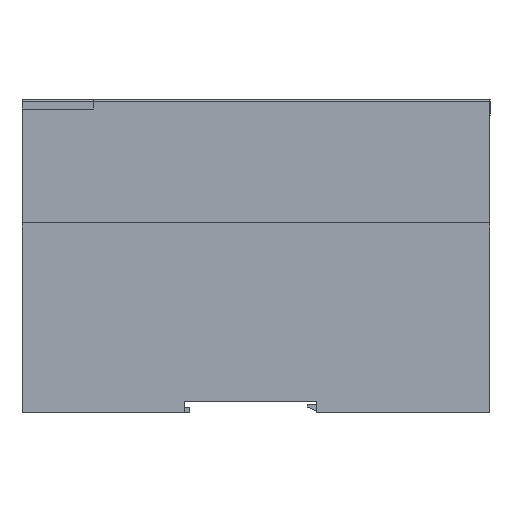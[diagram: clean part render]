
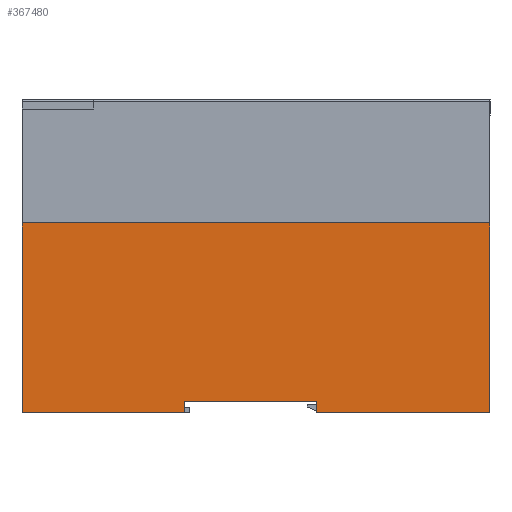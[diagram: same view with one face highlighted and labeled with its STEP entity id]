
A CAD part, left-side view. The second image highlights one B-rep face of the part: STEP entity #367480.
In plain terms, the highlighted planar face has unit normal (-1, 0, 0).
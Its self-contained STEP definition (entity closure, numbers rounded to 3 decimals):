
#3427 = ORIENTED_EDGE ( 'NONE', *, *, #66776, .T. ) ;
#8498 = CARTESIAN_POINT ( 'NONE',  ( -41., 0., 83. ) ) ;
#8836 = VECTOR ( 'NONE', #344730, 1000. ) ;
#16028 = DIRECTION ( 'NONE',  ( 0., -1., 0. ) ) ;
#19403 = ORIENTED_EDGE ( 'NONE', *, *, #241948, .F. ) ;
#21255 = VERTEX_POINT ( 'NONE', #113581 ) ;
#25566 = DIRECTION ( 'NONE',  ( 0., 0., -1. ) ) ;
#29226 = CARTESIAN_POINT ( 'NONE',  ( -41., 0., 50.3 ) ) ;
#38224 = CARTESIAN_POINT ( 'NONE',  ( -41., 124., 50.3 ) ) ;
#39912 = LINE ( 'NONE', #350540, #259852 ) ;
#44266 = ORIENTED_EDGE ( 'NONE', *, *, #181757, .F. ) ;
#52078 = CARTESIAN_POINT ( 'NONE',  ( -41., 81., 0. ) ) ;
#64812 = VERTEX_POINT ( 'NONE', #29226 ) ;
#66776 = EDGE_CURVE ( 'NONE', #21255, #317012, #146451, .T. ) ;
#66929 = ORIENTED_EDGE ( 'NONE', *, *, #120429, .T. ) ;
#72538 = CARTESIAN_POINT ( 'NONE',  ( -41., 0., 0. ) ) ;
#77685 = ORIENTED_EDGE ( 'NONE', *, *, #222435, .F. ) ;
#78243 = ORIENTED_EDGE ( 'NONE', *, *, #257621, .F. ) ;
#81954 = PLANE ( 'NONE',  #132914 ) ;
#83475 = DIRECTION ( 'NONE',  ( 0., 0., -1. ) ) ;
#94550 = VERTEX_POINT ( 'NONE', #38224 ) ;
#110386 = VECTOR ( 'NONE', #16028, 1000. ) ;
#113581 = CARTESIAN_POINT ( 'NONE',  ( -41., 46., 0. ) ) ;
#120429 = EDGE_CURVE ( 'NONE', #94550, #237604, #197639, .T. ) ;
#130101 = VERTEX_POINT ( 'NONE', #361971 ) ;
#132914 = AXIS2_PLACEMENT_3D ( 'NONE', #192501, #164843, #25566 ) ;
#136468 = ORIENTED_EDGE ( 'NONE', *, *, #151723, .T. ) ;
#137025 = CARTESIAN_POINT ( 'NONE',  ( -41., 0., 0. ) ) ;
#138741 = CARTESIAN_POINT ( 'NONE',  ( -41., 124., 83. ) ) ;
#139911 = FACE_OUTER_BOUND ( 'NONE', #363499, .T. ) ;
#146451 = LINE ( 'NONE', #327740, #182459 ) ;
#147802 = LINE ( 'NONE', #246183, #174806 ) ;
#151723 = EDGE_CURVE ( 'NONE', #345492, #21255, #284023, .T. ) ;
#152546 = LINE ( 'NONE', #256777, #8836 ) ;
#164843 = DIRECTION ( 'NONE',  ( 1., 0., 0. ) ) ;
#171694 = VECTOR ( 'NONE', #246037, 1000. ) ;
#174806 = VECTOR ( 'NONE', #243765, 1000. ) ;
#181757 = EDGE_CURVE ( 'NONE', #130101, #300550, #39912, .T. ) ;
#182459 = VECTOR ( 'NONE', #329008, 1000. ) ;
#189965 = ORIENTED_EDGE ( 'NONE', *, *, #361359, .T. ) ;
#192501 = CARTESIAN_POINT ( 'NONE',  ( -41., 0., 83. ) ) ;
#197639 = LINE ( 'NONE', #138741, #211343 ) ;
#211343 = VECTOR ( 'NONE', #83475, 1000. ) ;
#222435 = EDGE_CURVE ( 'NONE', #94550, #64812, #152546, .T. ) ;
#235000 = CARTESIAN_POINT ( 'NONE',  ( -41., 124., 0. ) ) ;
#237604 = VERTEX_POINT ( 'NONE', #235000 ) ;
#241948 = EDGE_CURVE ( 'NONE', #64812, #317012, #324194, .T. ) ;
#243765 = DIRECTION ( 'NONE',  ( 0., 1., 0. ) ) ;
#246037 = DIRECTION ( 'NONE',  ( 0., 0., -1. ) ) ;
#246183 = CARTESIAN_POINT ( 'NONE',  ( -41., 81., 3. ) ) ;
#247798 = VECTOR ( 'NONE', #322306, 1000. ) ;
#256777 = CARTESIAN_POINT ( 'NONE',  ( -41., 0., 50.3 ) ) ;
#257621 = EDGE_CURVE ( 'NONE', #345492, #130101, #147802, .T. ) ;
#259852 = VECTOR ( 'NONE', #322787, 1000. ) ;
#284023 = LINE ( 'NONE', #304989, #171694 ) ;
#300550 = VERTEX_POINT ( 'NONE', #52078 ) ;
#304989 = CARTESIAN_POINT ( 'NONE',  ( -41., 46., 3. ) ) ;
#317012 = VERTEX_POINT ( 'NONE', #137025 ) ;
#321323 = CARTESIAN_POINT ( 'NONE',  ( -41., 46., 3. ) ) ;
#322306 = DIRECTION ( 'NONE',  ( 0., 0., -1. ) ) ;
#322787 = DIRECTION ( 'NONE',  ( 0., 0., -1. ) ) ;
#324194 = LINE ( 'NONE', #8498, #247798 ) ;
#327740 = CARTESIAN_POINT ( 'NONE',  ( -41., 0., 0. ) ) ;
#329008 = DIRECTION ( 'NONE',  ( 0., -1., 0. ) ) ;
#344730 = DIRECTION ( 'NONE',  ( 0., -1., 0. ) ) ;
#345492 = VERTEX_POINT ( 'NONE', #321323 ) ;
#350540 = CARTESIAN_POINT ( 'NONE',  ( -41., 81., 3. ) ) ;
#361359 = EDGE_CURVE ( 'NONE', #237604, #300550, #366520, .T. ) ;
#361971 = CARTESIAN_POINT ( 'NONE',  ( -41., 81., 3. ) ) ;
#363499 = EDGE_LOOP ( 'NONE', ( #77685, #66929, #189965, #44266, #78243, #136468, #3427, #19403 ) ) ;
#366520 = LINE ( 'NONE', #72538, #110386 ) ;
#367480 = ADVANCED_FACE ( 'NONE', ( #139911 ), #81954, .F. ) ;
